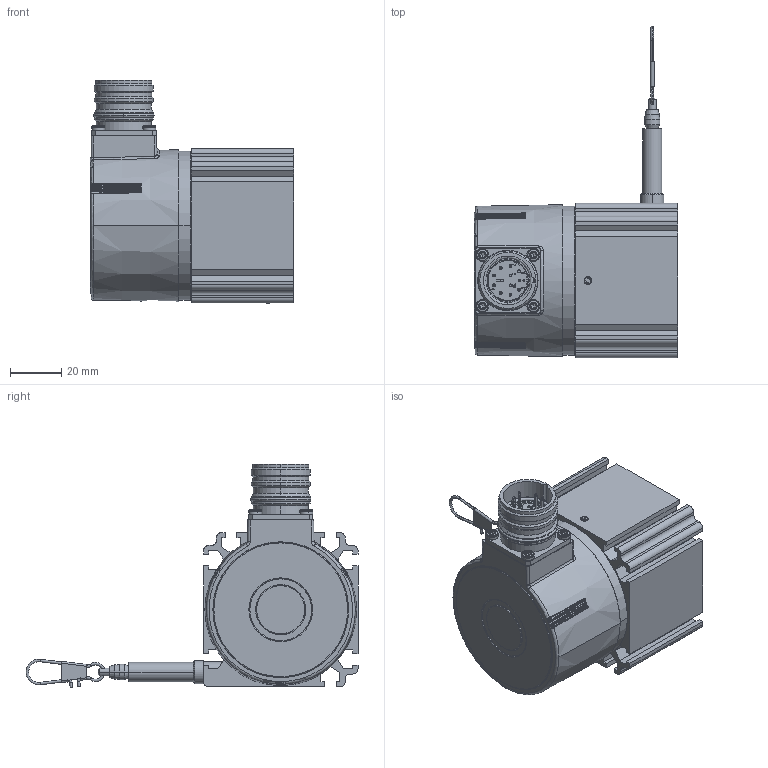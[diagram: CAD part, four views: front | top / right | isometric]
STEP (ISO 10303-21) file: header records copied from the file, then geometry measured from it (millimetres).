
FILE_DESCRIPTION((''),'2;1');
FILE_NAME('WDS-1500-P60-SR-SSI_02_ASM','2024-05-21T14:22:44',('15000597'),(''),'CREO PARAMETRIC BY PTC INC, 2022164','CREO PARAMETRIC BY PTC INC, 2022164','');
FILE_SCHEMA(('AUTOMOTIVE_DESIGN { 1 0 10303 214 1 1 1 1 }'));
Products named in the file (8): BAU_KLEMM_SSI_EN580EIML-SC10IG1; ADAPTER_36_AF1; TELESO_SENZORU_P60_150_AF0; VIKO_PR55_TL1MM_AF2; PRUCHODKA_LANKA_P60_AF2; SROUB_ISO4026_STAV_HEX_M3X3; KARABINKA25_AF1; WDS-1500-P60-SR-SSI_02_ASM
Assembly tree (8 placements, depth 2):
  WDS-1500-P60-SR-SSI_02_ASM
    BAU_KLEMM_SSI_EN580EIML-SC10IG1
    ADAPTER_36_AF1
    TELESO_SENZORU_P60_150_AF0
    VIKO_PR55_TL1MM_AF2
    PRUCHODKA_LANKA_P60_AF2
    SROUB_ISO4026_STAV_HEX_M3X3  x2
    KARABINKA25_AF1
Bounding box: 79.25 x 128.99 x 86.76 mm (x, y, z)
Volume: 42118.9 mm3; surface area: 71379 mm2
Topology: 7 solids, 14 shells, 1767 faces, 4644 edges, 2977 vertices
Faces by surface type: plane 614, cylinder 460, bspline 287, cone 193, torus 139, extrusion 50, sphere 24
Entity records: 95884 total; most frequent: CARTESIAN_POINT 40370, ORIENTED_EDGE 9076, DIRECTION 7670, PRESENTATION_STYLE_ASSIGNMENT 4570, STYLED_ITEM 4566, CURVE_STYLE 4554, EDGE_CURVE 4554, VERTEX_POINT 2953
